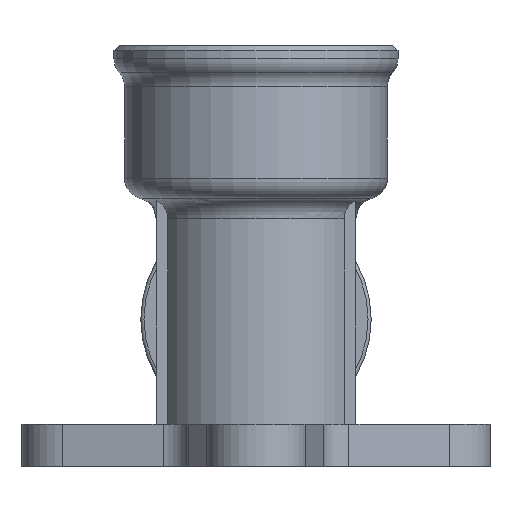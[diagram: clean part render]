
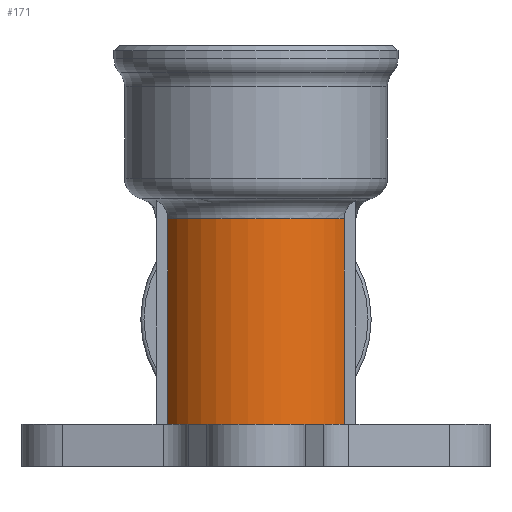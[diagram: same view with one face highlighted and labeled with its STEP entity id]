
A CAD part, front view. The second image highlights one B-rep face of the part: STEP entity #171.
In plain terms, the highlighted cylindrical face has radius 9.5 mm (diameter 19 mm), a partial arc.
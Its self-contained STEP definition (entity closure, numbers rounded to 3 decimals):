
#171=ADVANCED_FACE('',(#1272),#1274,.T.);
#1272=FACE_BOUND('',#1273,.T.);
#1273=EDGE_LOOP('',(#3997,#3998,#3999,#4000));
#1274=CYLINDRICAL_SURFACE('',#1275,9.5);
#1275=AXIS2_PLACEMENT_3D('',#1276,#1277,#1278);
#1276=CARTESIAN_POINT('',(0.,0.,-14.));
#1277=DIRECTION('',(0.,0.,1.));
#1278=DIRECTION('',(-1.,0.,0.));
#3997=ORIENTED_EDGE('',*,*,#5461,.F.);
#3998=ORIENTED_EDGE('',*,*,#5421,.F.);
#3999=ORIENTED_EDGE('',*,*,#5449,.F.);
#4000=ORIENTED_EDGE('',*,*,#5431,.F.);
#5421=EDGE_CURVE('',#6455,#6457,#6458,.T.);
#5431=EDGE_CURVE('',#6474,#6476,#6477,.F.);
#5449=EDGE_CURVE('',#6476,#6455,#6510,.T.);
#5461=EDGE_CURVE('',#6457,#6474,#6528,.F.);
#6455=VERTEX_POINT('',#8668);
#6457=VERTEX_POINT('',#8714);
#6458=CIRCLE('',#8715,9.5);
#6474=VERTEX_POINT('',#8892);
#6476=VERTEX_POINT('',#8896);
#6477=CIRCLE('',#8897,9.5);
#6510=LINE('',#8977,#8978);
#6528=LINE('',#9167,#9168);
#8668=CARTESIAN_POINT('',(-8.367,-4.5,9.527));
#8714=CARTESIAN_POINT('',(8.367,-4.5,9.527));
#8715=AXIS2_PLACEMENT_3D('',#8716,#8717,#8718);
#8716=CARTESIAN_POINT('',(0.,0.,9.527));
#8717=DIRECTION('',(0.,0.,1.));
#8718=DIRECTION('',(-0.881,-0.474,0.));
#8892=CARTESIAN_POINT('',(8.367,-4.5,-10.));
#8896=CARTESIAN_POINT('',(-8.367,-4.5,-10.));
#8897=AXIS2_PLACEMENT_3D('',#8898,#8899,#8900);
#8898=CARTESIAN_POINT('',(0.,0.,-10.));
#8899=DIRECTION('',(0.,0.,1.));
#8900=DIRECTION('',(-0.881,-0.474,0.));
#8977=CARTESIAN_POINT('',(-8.367,-4.5,-10.));
#8978=VECTOR('',#8979,1.);
#8979=DIRECTION('',(0.,0.,1.));
#9167=CARTESIAN_POINT('',(8.367,-4.5,-10.));
#9168=VECTOR('',#9169,1.);
#9169=DIRECTION('',(0.,0.,1.));
